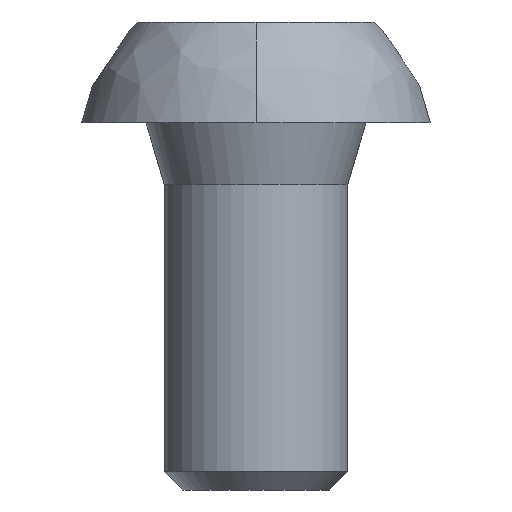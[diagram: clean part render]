
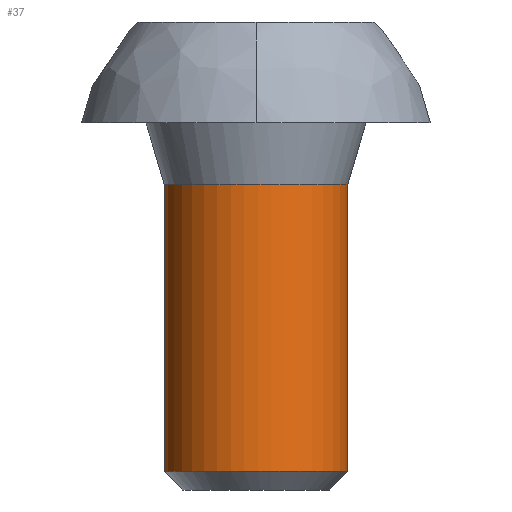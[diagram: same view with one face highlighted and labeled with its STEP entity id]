
A CAD part, left-side view. The second image highlights one B-rep face of the part: STEP entity #37.
In plain terms, the highlighted free-form (B-spline) face has degree [2, 1] with [9, 2] control points.
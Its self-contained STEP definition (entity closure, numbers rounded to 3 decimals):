
#37=ADVANCED_FACE('',(#62),#780,.T.);
#62=FACE_OUTER_BOUND('',#87,.T.);
#87=EDGE_LOOP('',(#127,#128,#129,#130));
#127=ORIENTED_EDGE('',*,*,#561,.T.);
#128=ORIENTED_EDGE('',*,*,#562,.T.);
#129=ORIENTED_EDGE('',*,*,#563,.T.);
#130=ORIENTED_EDGE('',*,*,#558,.F.);
#233=(
BOUNDED_CURVE()
B_SPLINE_CURVE(2,(#1292,#1293,#1294,#1295,#1296),.UNSPECIFIED.,.F.,.F.)
B_SPLINE_CURVE_WITH_KNOTS((3,2,3),(0.,2.356,4.712),
 .UNSPECIFIED.)
CURVE()
GEOMETRIC_REPRESENTATION_ITEM()
RATIONAL_B_SPLINE_CURVE((1.,0.707,1.,0.707,1.))
REPRESENTATION_ITEM('')
);
#235=(
BOUNDED_CURVE()
B_SPLINE_CURVE(2,(#1314,#1315,#1316,#1317,#1318),.UNSPECIFIED.,.F.,.F.)
B_SPLINE_CURVE_WITH_KNOTS((3,2,3),(0.,2.356,4.712),
 .UNSPECIFIED.)
CURVE()
GEOMETRIC_REPRESENTATION_ITEM()
RATIONAL_B_SPLINE_CURVE((1.,0.707,1.,0.707,1.))
REPRESENTATION_ITEM('')
);
#278=PCURVE('',#779,#390);
#281=PCURVE('',#780,#393);
#282=PCURVE('',#780,#394);
#283=PCURVE('',#780,#395);
#284=PCURVE('',#780,#396);
#288=PCURVE('',#781,#400);
#345=PCURVE('',#783,#457);
#347=PCURVE('',#783,#459);
#390=DEFINITIONAL_REPRESENTATION('',(#617),#1643);
#393=DEFINITIONAL_REPRESENTATION('',(#622),#1643);
#394=DEFINITIONAL_REPRESENTATION('',(#623),#1643);
#395=DEFINITIONAL_REPRESENTATION('',(#625),#1643);
#396=DEFINITIONAL_REPRESENTATION('',(#626),#1643);
#400=DEFINITIONAL_REPRESENTATION('',(#632),#1643);
#457=DEFINITIONAL_REPRESENTATION('',(#703),#1643);
#459=DEFINITIONAL_REPRESENTATION('',(#705),#1643);
#502=SURFACE_CURVE('',#233,(#278,#284),.PCURVE_S1.);
#505=SURFACE_CURVE('',#621,(#281,#345),.PCURVE_S1.);
#506=SURFACE_CURVE('',#235,(#282,#288),.PCURVE_S1.);
#507=SURFACE_CURVE('',#624,(#283,#347),.PCURVE_S1.);
#558=EDGE_CURVE('',#740,#741,#502,.T.);
#561=EDGE_CURVE('',#740,#743,#505,.T.);
#562=EDGE_CURVE('',#743,#744,#506,.T.);
#563=EDGE_CURVE('',#744,#741,#507,.T.);
#617=B_SPLINE_CURVE_WITH_KNOTS('',1,(#1297,#1298),.UNSPECIFIED.,.F.,.F.,
(2,2),(0.,4.712),.UNSPECIFIED.);
#621=B_SPLINE_CURVE_WITH_KNOTS('',1,(#1310,#1311),.UNSPECIFIED.,.F.,.F.,
(2,2),(-4.694,0.),.UNSPECIFIED.);
#622=B_SPLINE_CURVE_WITH_KNOTS('',1,(#1312,#1313),.UNSPECIFIED.,.F.,.F.,
(2,2),(-4.694,0.),.UNSPECIFIED.);
#623=B_SPLINE_CURVE_WITH_KNOTS('',1,(#1319,#1320),.UNSPECIFIED.,.F.,.F.,
(2,2),(0.,4.712),.UNSPECIFIED.);
#624=B_SPLINE_CURVE_WITH_KNOTS('',1,(#1321,#1322),.UNSPECIFIED.,.F.,.F.,
(2,2),(-4.694,0.),.UNSPECIFIED.);
#625=B_SPLINE_CURVE_WITH_KNOTS('',1,(#1323,#1324),.UNSPECIFIED.,.F.,.F.,
(2,2),(-4.694,0.),.UNSPECIFIED.);
#626=B_SPLINE_CURVE_WITH_KNOTS('',1,(#1325,#1326),.UNSPECIFIED.,.F.,.F.,
(2,2),(0.,4.712),.UNSPECIFIED.);
#632=B_SPLINE_CURVE_WITH_KNOTS('',1,(#1342,#1343),.UNSPECIFIED.,.F.,.F.,
(2,2),(0.,4.712),.UNSPECIFIED.);
#703=B_SPLINE_CURVE_WITH_KNOTS('',1,(#1540,#1541),.UNSPECIFIED.,.F.,.F.,
(2,2),(-4.694,0.),.UNSPECIFIED.);
#705=B_SPLINE_CURVE_WITH_KNOTS('',1,(#1549,#1550),.UNSPECIFIED.,.F.,.F.,
(2,2),(-4.694,0.),.UNSPECIFIED.);
#740=VERTEX_POINT('',#1208);
#741=VERTEX_POINT('',#1209);
#743=VERTEX_POINT('',#1211);
#744=VERTEX_POINT('',#1212);
#779=(
BOUNDED_SURFACE()
B_SPLINE_SURFACE(2,1,((#973,#974),(#975,#976),(#977,#978),(#979,#980),(#981,
#982),(#983,#984),(#985,#986),(#987,#988),(#989,#990)),.UNSPECIFIED.,.T.,
 .F.,.F.)
B_SPLINE_SURFACE_WITH_KNOTS((3,2,2,2,3),(2,2),(0.,1.571,3.142,
4.712,6.283),(0.,6.892),.UNSPECIFIED.)
GEOMETRIC_REPRESENTATION_ITEM()
RATIONAL_B_SPLINE_SURFACE(((1.,1.),(0.707,0.707),
(1.,1.),(0.707,0.707),(1.,1.),(0.707,
0.707),(1.,1.),(0.707,0.707),(1.,1.)))
REPRESENTATION_ITEM('')
SURFACE()
);
#780=(
BOUNDED_SURFACE()
B_SPLINE_SURFACE(2,1,((#991,#992),(#993,#994),(#995,#996),(#997,#998),(#999,
#1000),(#1001,#1002),(#1003,#1004),(#1005,#1006),(#1007,#1008)),
 .UNSPECIFIED.,.T.,.F.,.F.)
B_SPLINE_SURFACE_WITH_KNOTS((3,2,2,2,3),(2,2),(0.,1.571,3.142,
4.712,6.283),(0.,5.635),.UNSPECIFIED.)
GEOMETRIC_REPRESENTATION_ITEM()
RATIONAL_B_SPLINE_SURFACE(((1.,1.),(0.707,0.707),
(1.,1.),(0.707,0.707),(1.,1.),(0.707,
0.707),(1.,1.),(0.707,0.707),(1.,1.)))
REPRESENTATION_ITEM('')
SURFACE()
);
#781=(
BOUNDED_SURFACE()
B_SPLINE_SURFACE(2,1,((#1009,#1010),(#1011,#1012),(#1013,#1014),(#1015,#1016),
(#1017,#1018),(#1019,#1020),(#1021,#1022),(#1023,#1024),(#1025,#1026)),
 .UNSPECIFIED.,.T.,.F.,.F.)
B_SPLINE_SURFACE_WITH_KNOTS((3,2,2,2,3),(2,2),(0.,1.571,3.142,
4.712,6.283),(0.,2.335),.UNSPECIFIED.)
GEOMETRIC_REPRESENTATION_ITEM()
RATIONAL_B_SPLINE_SURFACE(((1.,1.),(0.707,0.707),
(1.,1.),(0.707,0.707),(1.,1.),(0.707,
0.707),(1.,1.),(0.707,0.707),(1.,1.)))
REPRESENTATION_ITEM('')
SURFACE()
);
#783=(
BOUNDED_SURFACE()
B_SPLINE_SURFACE(2,1,((#1058,#1059),(#1060,#1061),(#1062,#1063),(#1064,#1065),
(#1066,#1067),(#1068,#1069),(#1070,#1071),(#1072,#1073),(#1074,#1075)),
 .UNSPECIFIED.,.T.,.F.,.F.)
B_SPLINE_SURFACE_WITH_KNOTS((3,2,2,2,3),(2,2),(0.,1.571,3.142,
4.712,6.283),(0.,5.635),.UNSPECIFIED.)
GEOMETRIC_REPRESENTATION_ITEM()
RATIONAL_B_SPLINE_SURFACE(((1.,1.),(0.707,0.707),
(1.,1.),(0.707,0.707),(1.,1.),(0.707,
0.707),(1.,1.),(0.707,0.707),(1.,1.)))
REPRESENTATION_ITEM('')
SURFACE()
);
#973=CARTESIAN_POINT('',(6.,0.,0.));
#974=CARTESIAN_POINT('',(-0.601,0.,1.98));
#975=CARTESIAN_POINT('',(6.,0.,0.));
#976=CARTESIAN_POINT('',(-0.601,1.98,1.98));
#977=CARTESIAN_POINT('',(6.,0.,0.));
#978=CARTESIAN_POINT('',(-0.601,1.98,0.));
#979=CARTESIAN_POINT('',(6.,0.,0.));
#980=CARTESIAN_POINT('',(-0.601,1.98,-1.98));
#981=CARTESIAN_POINT('',(6.,0.,0.));
#982=CARTESIAN_POINT('',(-0.601,0.,-1.98));
#983=CARTESIAN_POINT('',(6.,0.,0.));
#984=CARTESIAN_POINT('',(-0.601,-1.98,-1.98));
#985=CARTESIAN_POINT('',(6.,0.,0.));
#986=CARTESIAN_POINT('',(-0.601,-1.98,0.));
#987=CARTESIAN_POINT('',(6.,0.,0.));
#988=CARTESIAN_POINT('',(-0.601,-1.98,1.98));
#989=CARTESIAN_POINT('',(6.,0.,0.));
#990=CARTESIAN_POINT('',(-0.601,0.,1.98));
#991=CARTESIAN_POINT('',(0.529,0.,1.5));
#992=CARTESIAN_POINT('',(6.164,0.,1.5));
#993=CARTESIAN_POINT('',(0.529,-1.5,1.5));
#994=CARTESIAN_POINT('',(6.164,-1.5,1.5));
#995=CARTESIAN_POINT('',(0.529,-1.5,0.));
#996=CARTESIAN_POINT('',(6.164,-1.5,0.));
#997=CARTESIAN_POINT('',(0.529,-1.5,-1.5));
#998=CARTESIAN_POINT('',(6.164,-1.5,-1.5));
#999=CARTESIAN_POINT('',(0.529,0.,-1.5));
#1000=CARTESIAN_POINT('',(6.164,0.,-1.5));
#1001=CARTESIAN_POINT('',(0.529,1.5,-1.5));
#1002=CARTESIAN_POINT('',(6.164,1.5,-1.5));
#1003=CARTESIAN_POINT('',(0.529,1.5,0.));
#1004=CARTESIAN_POINT('',(6.164,1.5,0.));
#1005=CARTESIAN_POINT('',(0.529,1.5,1.5));
#1006=CARTESIAN_POINT('',(6.164,1.5,1.5));
#1007=CARTESIAN_POINT('',(0.529,0.,1.5));
#1008=CARTESIAN_POINT('',(6.164,0.,1.5));
#1009=CARTESIAN_POINT('',(7.194,0.,0.));
#1010=CARTESIAN_POINT('',(5.542,0.,1.651));
#1011=CARTESIAN_POINT('',(7.194,0.,0.));
#1012=CARTESIAN_POINT('',(5.542,1.651,1.651));
#1013=CARTESIAN_POINT('',(7.194,0.,0.));
#1014=CARTESIAN_POINT('',(5.542,1.651,0.));
#1015=CARTESIAN_POINT('',(7.194,0.,0.));
#1016=CARTESIAN_POINT('',(5.542,1.651,-1.651));
#1017=CARTESIAN_POINT('',(7.194,0.,0.));
#1018=CARTESIAN_POINT('',(5.542,0.,-1.651));
#1019=CARTESIAN_POINT('',(7.194,0.,0.));
#1020=CARTESIAN_POINT('',(5.542,-1.651,-1.651));
#1021=CARTESIAN_POINT('',(7.194,0.,0.));
#1022=CARTESIAN_POINT('',(5.542,-1.651,0.));
#1023=CARTESIAN_POINT('',(7.194,0.,0.));
#1024=CARTESIAN_POINT('',(5.542,-1.651,1.651));
#1025=CARTESIAN_POINT('',(7.194,0.,0.));
#1026=CARTESIAN_POINT('',(5.542,0.,1.651));
#1058=CARTESIAN_POINT('',(0.529,0.,-1.5));
#1059=CARTESIAN_POINT('',(6.164,0.,-1.5));
#1060=CARTESIAN_POINT('',(0.529,1.5,-1.5));
#1061=CARTESIAN_POINT('',(6.164,1.5,-1.5));
#1062=CARTESIAN_POINT('',(0.529,1.5,0.));
#1063=CARTESIAN_POINT('',(6.164,1.5,0.));
#1064=CARTESIAN_POINT('',(0.529,1.5,1.5));
#1065=CARTESIAN_POINT('',(6.164,1.5,1.5));
#1066=CARTESIAN_POINT('',(0.529,0.,1.5));
#1067=CARTESIAN_POINT('',(6.164,0.,1.5));
#1068=CARTESIAN_POINT('',(0.529,-1.5,1.5));
#1069=CARTESIAN_POINT('',(6.164,-1.5,1.5));
#1070=CARTESIAN_POINT('',(0.529,-1.5,0.));
#1071=CARTESIAN_POINT('',(6.164,-1.5,0.));
#1072=CARTESIAN_POINT('',(0.529,-1.5,-1.5));
#1073=CARTESIAN_POINT('',(6.164,-1.5,-1.5));
#1074=CARTESIAN_POINT('',(0.529,0.,-1.5));
#1075=CARTESIAN_POINT('',(6.164,0.,-1.5));
#1208=CARTESIAN_POINT('',(1.,1.5,0.));
#1209=CARTESIAN_POINT('',(1.,-1.5,0.));
#1211=CARTESIAN_POINT('',(5.694,1.5,0.));
#1212=CARTESIAN_POINT('',(5.694,-1.5,0.));
#1292=CARTESIAN_POINT('',(1.,1.5,0.));
#1293=CARTESIAN_POINT('',(1.,1.5,-1.5));
#1294=CARTESIAN_POINT('',(1.,0.,-1.5));
#1295=CARTESIAN_POINT('',(1.,-1.5,-1.5));
#1296=CARTESIAN_POINT('',(1.,-1.5,0.));
#1297=CARTESIAN_POINT('',(1.571,5.22));
#1298=CARTESIAN_POINT('',(4.712,5.22));
#1310=CARTESIAN_POINT('',(1.,1.5,0.));
#1311=CARTESIAN_POINT('',(5.694,1.5,0.));
#1312=CARTESIAN_POINT('',(4.712,0.471));
#1313=CARTESIAN_POINT('',(4.712,5.164));
#1314=CARTESIAN_POINT('',(5.694,1.5,0.));
#1315=CARTESIAN_POINT('',(5.694,1.5,-1.5));
#1316=CARTESIAN_POINT('',(5.694,0.,-1.5));
#1317=CARTESIAN_POINT('',(5.694,-1.5,-1.5));
#1318=CARTESIAN_POINT('',(5.694,-1.5,0.));
#1319=CARTESIAN_POINT('',(4.712,5.164));
#1320=CARTESIAN_POINT('',(1.571,5.164));
#1321=CARTESIAN_POINT('',(5.694,-1.5,0.));
#1322=CARTESIAN_POINT('',(1.,-1.5,0.));
#1323=CARTESIAN_POINT('',(1.571,5.164));
#1324=CARTESIAN_POINT('',(1.571,0.471));
#1325=CARTESIAN_POINT('',(4.712,0.471));
#1326=CARTESIAN_POINT('',(1.571,0.471));
#1342=CARTESIAN_POINT('',(1.571,2.121));
#1343=CARTESIAN_POINT('',(4.712,2.121));
#1540=CARTESIAN_POINT('',(1.571,0.471));
#1541=CARTESIAN_POINT('',(1.571,5.164));
#1549=CARTESIAN_POINT('',(4.712,5.164));
#1550=CARTESIAN_POINT('',(4.712,0.471));
#1643=(
GEOMETRIC_REPRESENTATION_CONTEXT(2)
PARAMETRIC_REPRESENTATION_CONTEXT()
REPRESENTATION_CONTEXT('pspace','')
);
